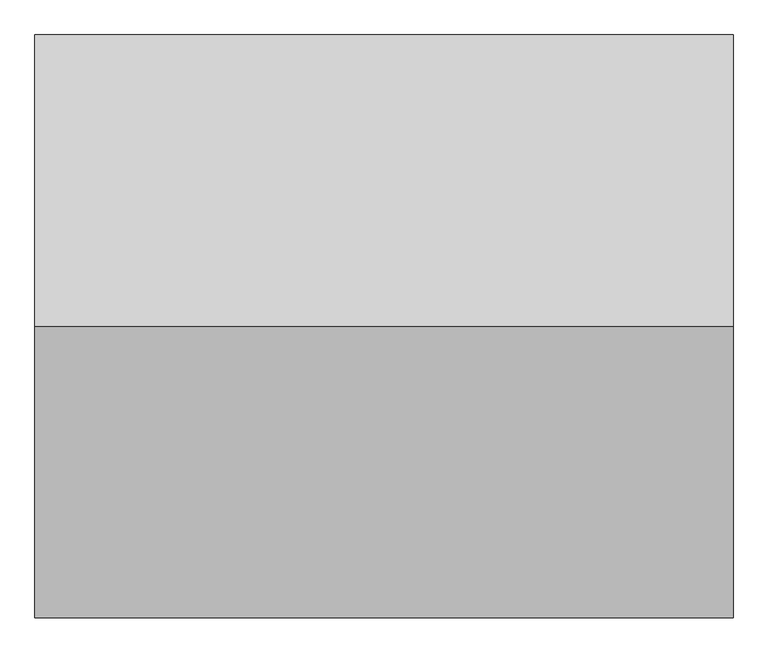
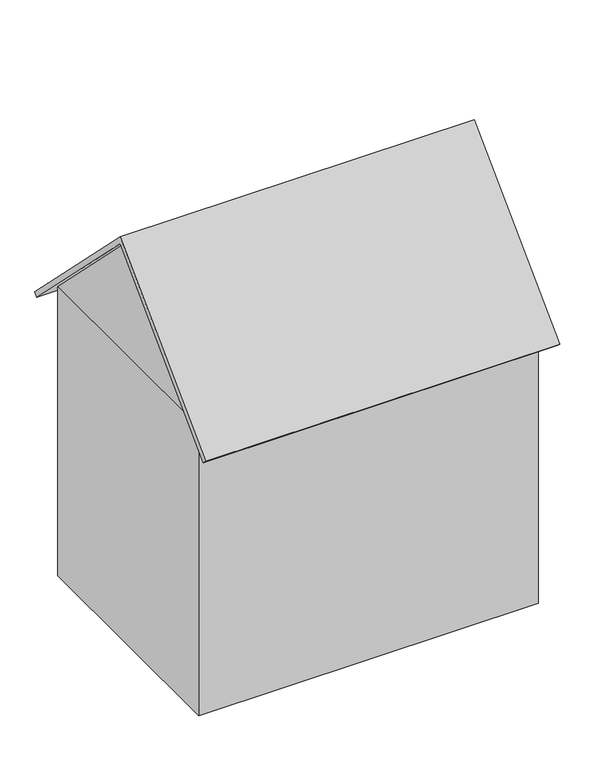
"""IFC4 building model written with IfcOpenShell, lengths in millimetres: furniture geometry, Spielhaus : Spielhaus."""

from ifc_helpers import new_model, si_unit, frame, origin, place, context, project, spatial, polyline, outline, extrude, faceted_brep, source, transform, mapped, element, save


def furniture_258186c3(model_context):
    return source(origin(), model_context, "Body", "SolidModel", [
        extrude(outline(polyline([(218.0020434, 2518.0020434), (936.0040867, 1800.0), (-500.0, 1800.0), (218.0020434, 2518.0020434)])), frame((-1000.0, 0.0, 0.0), z_axis=(1.0, 0.0, 0.0), x_axis=(0.0, 1.0, 0.0)), (0.0, 0.0, 1.0), 2000.0),
        extrude(outline(polyline([(218.0020434, 2518.0020434), (-630.5260941, 1669.4739059), (-651.7392975, 1690.6871094), (218.0020434, 2560.4284502), (1087.7433842, 1690.6871094), (1066.5301808, 1669.4739059), (218.0020434, 2518.0020434)])), frame((-1047.1102793, 0.0, 0.0), z_axis=(1.0, 0.0, 0.0), x_axis=(0.0, 1.0, 0.0)), (0.0, 0.0, 1.0), 2084.4494623),
        faceted_brep([(1000.0, -500.0, 1800.0), (1000.0, 936.0040867, 1800.0), (-1000.0, 936.0040867, 1800.0), (-1000.0, -500.0, 1800.0), (1000.0, -500.0, 0.0), (-1000.0, -500.0, 0.0), (-1000.0, 936.0040867, 0.0), (1000.0, 936.0040867, 0.0), (-42.5251518, 936.0040867, 40.9348086), (-42.5251518, 936.0040867, 1430.9348086), (-642.5251518, 936.0040867, 1430.9348086), (-642.5251518, 936.0040867, 40.9348086), (747.7730501, 936.0040867, 1258.7551925), (294.7730501, 936.0040867, 1258.7551925), (294.7730501, 936.0040867, 716.7551925), (747.7730501, 936.0040867, 716.7551925), (-42.5251518, 900.267201, 40.9348086), (-642.5251518, 900.267201, 40.9348086), (-642.5251518, 900.267201, 1430.9348086), (-42.5251518, 900.267201, 1430.9348086), (747.7730501, 900.267201, 1258.7551925), (747.7730501, 900.267201, 716.7551925), (294.7730501, 900.267201, 716.7551925), (294.7730501, 900.267201, 1258.7551925)], [[[0, 1, 2, 3]], [[4, 5, 6, 7]], [[3, 5, 4, 0]], [[2, 6, 5, 3]], [[1, 7, 6, 2], [8, 9, 10, 11], [12, 13, 14, 15]], [[0, 4, 7, 1]], [[16, 17, 18, 19]], [[20, 21, 22, 23]], [[16, 8, 11, 17]], [[17, 11, 10, 18]], [[18, 10, 9, 19]], [[19, 9, 8, 16]], [[20, 12, 15, 21]], [[21, 15, 14, 22]], [[22, 14, 13, 23]], [[23, 13, 12, 20]]]),
    ])


if __name__ == "__main__":
    model = new_model("IFC4")
    model_context = context("Model", 3, world=origin())
    ifc_project = project(units=[si_unit("LENGTHUNIT", "METRE", prefix="MILLI")], contexts=[model_context])
    site = spatial("IfcSite", under=ifc_project)
    building = spatial("IfcBuilding", under=site)
    placement = place(None, origin())
    furniture_shape = furniture_258186c3(model_context)
    element("IfcFurniture", 1, ObjectType="Spielhaus : Spielhaus", at=placement, inside=building, context=model_context, shape_type="MappedRepresentation", body=[
        mapped(furniture_shape, transform((0.0, 0.0, 0.0), x_axis=(1.0, 0.0, 0.0), y_axis=(0.0, 1.0, 0.0), z_axis=(0.0, 0.0, 1.0))),
    ])
    save(model, "model.ifc")
